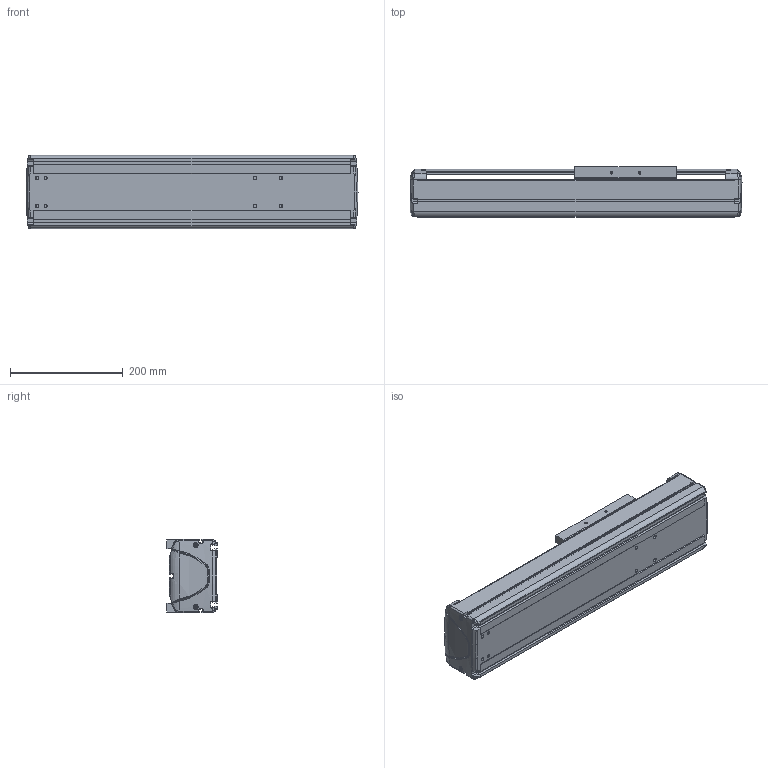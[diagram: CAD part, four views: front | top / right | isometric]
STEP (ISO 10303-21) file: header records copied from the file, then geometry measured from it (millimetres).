
FILE_DESCRIPTION((''),'2;1');
FILE_NAME('BE30E-ST-L_N-25_IGS_PRT','2017-06-17T',(' '),(''),'PRO/ENGINEER BY PARAMETRIC TECHNOLOGY CORPORATION, 2015030','PRO/ENGINEER BY PARAMETRIC TECHNOLOGY CORPORATION, 2015030','');
FILE_SCHEMA(('CONFIG_CONTROL_DESIGN'));
Length unit declared in the file: millimetre
Products named in the file (1): BE30E-ST-L_N-25_IGS_PRT
Bounding box: 590 x 89.8 x 130 mm (x, y, z)
Volume: 2156959.4 mm3; surface area: 770728.3 mm2
Topology: 2 solids, 68 shells, 1305 faces, 3485 edges, 2266 vertices
Faces by surface type: plane 601, cylinder 544, bspline 60, torus 46, cone 30, sphere 24
Entity records: 43750 total; most frequent: CARTESIAN_POINT 11164, DIRECTION 6696, ORIENTED_EDGE 6667, EDGE_CURVE 3465, AXIS2_PLACEMENT_3D 2388, VERTEX_POINT 2266, VECTOR 1920, LINE 1920
